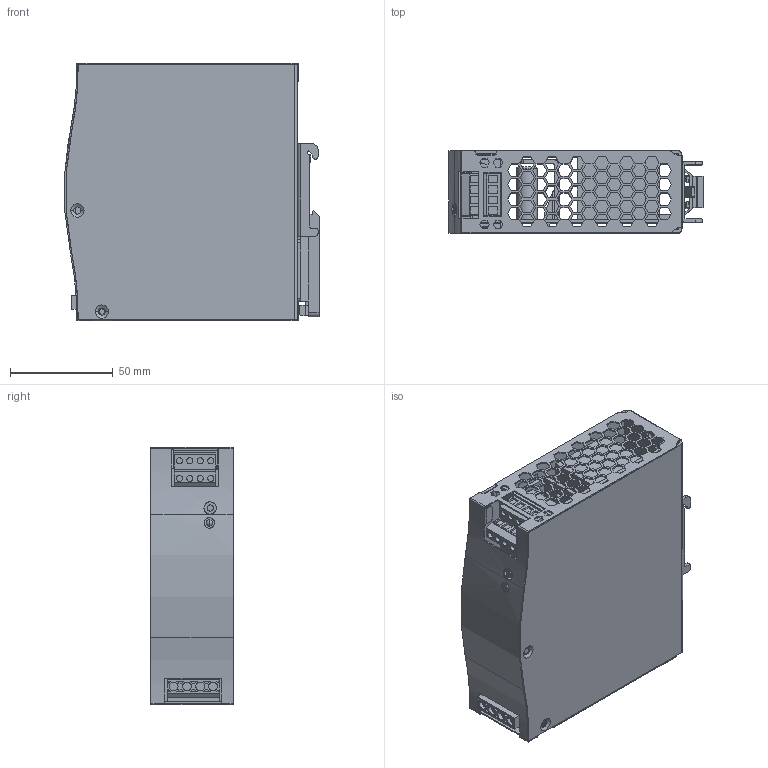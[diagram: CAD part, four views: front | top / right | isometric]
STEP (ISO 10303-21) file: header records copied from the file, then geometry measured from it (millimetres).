
FILE_DESCRIPTION(('Creo Elements/Direct Modeling STEP Export'),'2;1');
FILE_NAME('DDR-240.stp','2018-10-11T10:22:26',(''),(''),'PTC Creo Elements/Direct Modeling STEP processor for AP214 (Solid Model)','PTC Creo Elements/Direct Modeling 19.0A 04-Oct-2014 (C) Parametric Technology GmbH','');
FILE_SCHEMA(('AUTOMOTIVE_DESIGN { 1 0 10303 214 1 1 1 1 }'));
Length unit declared in the file: millimetre
Products named in the file (33): PCB; SVR1; C103; LED1; C102; TR; TF; DDR-240A; TB1; TB2新1; DDR-240B; HOLD.PRT; 下盖; 上盖; CASE; HS2; PIN1; 1GG1HS-SZ069; PIN1.1; HS1; 零件1; 1GG1HS-SZ072; 1GG1HS-SZ078; 1HH145x21-3R5; 1HH176x13-3R5; 1HH2DDR-240A; 1HH2DDR-240B; PIN1.2.1; 4; PIN1.2; 1GG1HS-SZ079; DDR-240
Assembly tree (32 placements, depth 3):
  DDR-240
    1GG1HS-SZ079
      PIN1.2
      4
      PIN1.2.1
    1HH2DDR-240B
    1HH2DDR-240A
    1HH176x13-3R5
    1HH145x21-3R5
    1GG1HS-SZ078
    1GG1HS-SZ072
      零件1
      HS1
      PIN1.1
    1GG1HS-SZ069
      PIN1
      HS2
    CASE
      上盖
      下盖
      HOLD.PRT
    DDR-240B
      PCB
      TB2新1
      TB1
    DDR-240A
      TF
      TR
      C102
      LED1
      C103
      SVR1
      PCB
Bounding box: 123.41 x 40.01 x 125.2 mm (x, y, z)
Volume: 192653.1 mm3; surface area: 219663 mm2
Topology: 26 solids, 26 shells, 1859 faces, 5308 edges, 3505 vertices
Faces by surface type: plane 1487, cylinder 306, torus 38, cone 26, bspline 2
Entity records: 61139 total; most frequent: CARTESIAN_POINT 10862, ORIENTED_EDGE 10630, DIRECTION 9407, EDGE_CURVE 5315, VECTOR 4515, LINE 4515, VERTEX_POINT 3513, AXIS2_PLACEMENT_3D 2446
